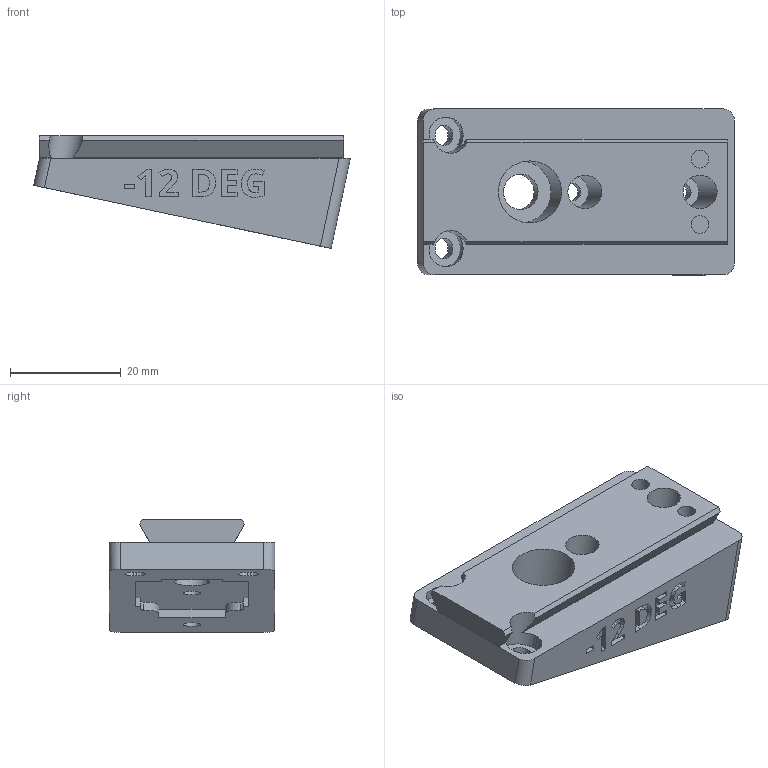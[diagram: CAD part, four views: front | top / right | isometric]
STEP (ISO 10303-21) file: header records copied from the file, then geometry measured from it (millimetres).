
FILE_DESCRIPTION(/* description */ ('STEP AP242 Edition 2','CAx-IF Rec.Pracs.---Representation and Presentation of Product Manufacturing Information (PMI)---4.0---2014-10-13','CAx-IF Rec.Pracs.---3D Tessellated Geometry---0.4---2014-09-14','2;1','CAx-IF Rec.Pracs.---User Defined Attributes---1.5---2016-08-15'),/* implementation_level */ '2;1');
FILE_NAME(/* name */ 'Camera Wedges - CAMERA MOUNTING WEDGE, NEG, -12 DEG',/* time_stamp */ '2026-07-08T20:34:26Z',/* author */ (''),/* organization */ (''),/* preprocessor_version */ 'ST-DEVELOPER v20',/* originating_system */ 'ONSHAPE BY PTC INC, 1.217',/* authorisation */ ' ');
FILE_SCHEMA (('AP242_MANAGED_MODEL_BASED_3D_ENGINEERING_MIM_LF { 1 0 10303 442 3 1 4 }'));
Length unit declared in the file: metre
Products named in the file (1): CAMERA MOUNTING WEDGE, NEG, -12 DEG
Bounding box: 57.27 x 30 x 20.44 mm (x, y, z)
Volume: 18775.2 mm3; surface area: 7346.7 mm2
Topology: 1 solids, 1 shells, 253 faces, 691 edges, 460 vertices
Faces by surface type: plane 155, cylinder 52, bspline 46
Full cylindrical faces by diameter (mm): 3.2 x4, 6 x2, 6.4 x1, 11.2 x1
Entity records: 8131 total; most frequent: CARTESIAN_POINT 1903, ORIENTED_EDGE 1366, DIRECTION 1123, EDGE_CURVE 683, LINE 475, VECTOR 475, VERTEX_POINT 460, AXIS2_PLACEMENT_3D 324
